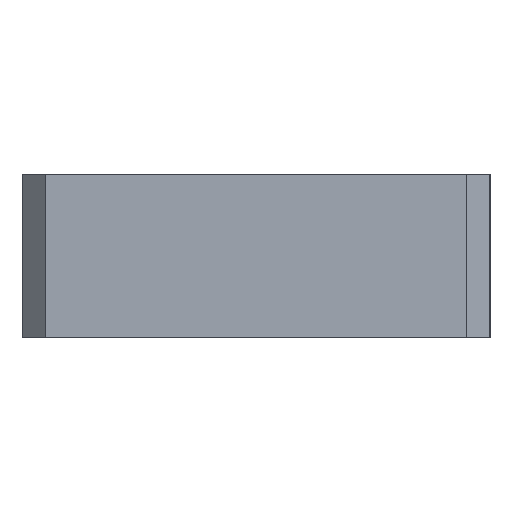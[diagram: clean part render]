
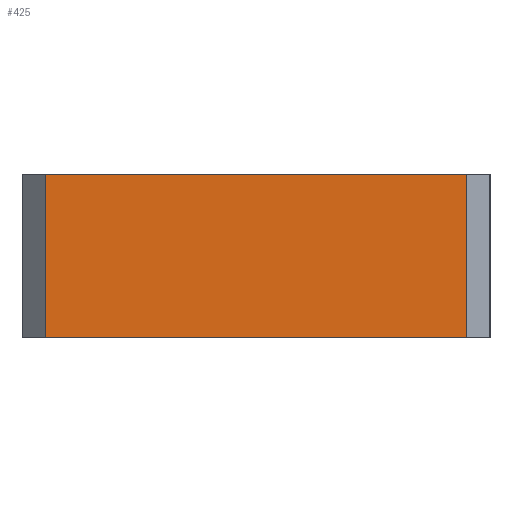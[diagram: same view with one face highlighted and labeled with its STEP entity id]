
A CAD part, left-side view. The second image highlights one B-rep face of the part: STEP entity #425.
In plain terms, the highlighted planar face has unit normal (-1, 0, 0).
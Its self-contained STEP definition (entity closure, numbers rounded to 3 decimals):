
#398=AXIS2_PLACEMENT_3D('Plane Axis2P3D',#395,#396,#397) ;
#101=CARTESIAN_POINT('Vertex',(-150.5,51.,35.)) ;
#104=CARTESIAN_POINT('Line Origine',(-150.5,6.,35.)) ;
#108=CARTESIAN_POINT('Vertex',(-150.5,-39.,35.)) ;
#395=CARTESIAN_POINT('Axis2P3D Location',(-150.5,-44.,0.)) ;
#400=CARTESIAN_POINT('Line Origine',(-150.5,-39.,17.5)) ;
#404=CARTESIAN_POINT('Vertex',(-150.5,-39.,0.)) ;
#407=CARTESIAN_POINT('Line Origine',(-150.5,51.,17.5)) ;
#411=CARTESIAN_POINT('Vertex',(-150.5,51.,0.)) ;
#414=CARTESIAN_POINT('Line Origine',(-150.5,6.,0.)) ;
#105=DIRECTION('Vector Direction',(0.,1.,0.)) ;
#396=DIRECTION('Axis2P3D Direction',(1.,0.,0.)) ;
#397=DIRECTION('Axis2P3D XDirection',(0.,1.,0.)) ;
#401=DIRECTION('Vector Direction',(0.,0.,-1.)) ;
#408=DIRECTION('Vector Direction',(0.,0.,1.)) ;
#415=DIRECTION('Vector Direction',(0.,1.,0.)) ;
#106=VECTOR('Line Direction',#105,1.) ;
#402=VECTOR('Line Direction',#401,1.) ;
#409=VECTOR('Line Direction',#408,1.) ;
#416=VECTOR('Line Direction',#415,1.) ;
#420=ORIENTED_EDGE('',*,*,#406,.T.) ;
#421=ORIENTED_EDGE('',*,*,#110,.F.) ;
#422=ORIENTED_EDGE('',*,*,#413,.F.) ;
#423=ORIENTED_EDGE('',*,*,#418,.T.) ;
#425=ADVANCED_FACE('PartBody',(#424),#399,.F.) ;
#110=EDGE_CURVE('',#102,#109,#107,.F.) ;
#406=EDGE_CURVE('',#405,#109,#403,.F.) ;
#413=EDGE_CURVE('',#412,#102,#410,.T.) ;
#418=EDGE_CURVE('',#412,#405,#417,.F.) ;
#419=EDGE_LOOP('',(#420,#421,#422,#423)) ;
#424=FACE_OUTER_BOUND('',#419,.T.) ;
#107=LINE('Line',#104,#106) ;
#403=LINE('Line',#400,#402) ;
#410=LINE('Line',#407,#409) ;
#417=LINE('Line',#414,#416) ;
#399=PLANE('',#398) ;
#102=VERTEX_POINT('',#101) ;
#109=VERTEX_POINT('',#108) ;
#405=VERTEX_POINT('',#404) ;
#412=VERTEX_POINT('',#411) ;
